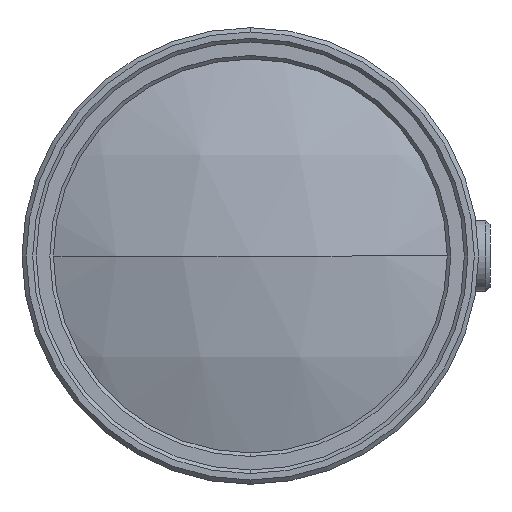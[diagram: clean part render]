
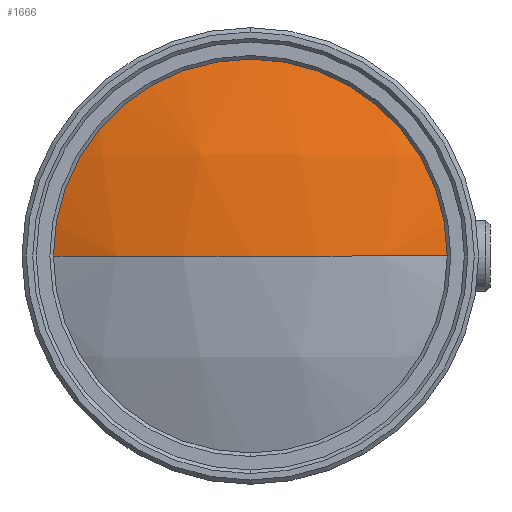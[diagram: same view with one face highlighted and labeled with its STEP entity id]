
A CAD part, left-side view. The second image highlights one B-rep face of the part: STEP entity #1666.
In plain terms, the highlighted spherical face has radius 36.75 mm.
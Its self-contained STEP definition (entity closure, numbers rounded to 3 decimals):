
#185 = CIRCLE ( 'NONE', #608, 36.75 ) ;
#213 = VERTEX_POINT ( 'NONE', #1812 ) ;
#258 = DIRECTION ( 'NONE',  ( 0., 0., 1. ) ) ;
#428 = DIRECTION ( 'NONE',  ( 0., 0., 1. ) ) ;
#484 = CARTESIAN_POINT ( 'NONE',  ( 5.615, 0., 13.9 ) ) ;
#608 = AXIS2_PLACEMENT_3D ( 'NONE', #2148, #428, #2445 ) ;
#737 = DIRECTION ( 'NONE',  ( 0., 0., -1. ) ) ;
#834 = VERTEX_POINT ( 'NONE', #985 ) ;
#835 = ORIENTED_EDGE ( 'NONE', *, *, #1223, .F. ) ;
#966 = ORIENTED_EDGE ( 'NONE', *, *, #2005, .T. ) ;
#981 = AXIS2_PLACEMENT_3D ( 'NONE', #2472, #737, #2750 ) ;
#985 = CARTESIAN_POINT ( 'NONE',  ( 2.884, 0., 0. ) ) ;
#1119 = CARTESIAN_POINT ( 'NONE',  ( 5.615, 0., 0. ) ) ;
#1152 = EDGE_CURVE ( 'NONE', #2860, #213, #2261, .T. ) ;
#1223 = EDGE_CURVE ( 'NONE', #1362, #2860, #3580, .T. ) ;
#1360 = ORIENTED_EDGE ( 'NONE', *, *, #2800, .F. ) ;
#1362 = VERTEX_POINT ( 'NONE', #2919 ) ;
#1382 = CIRCLE ( 'NONE', #981, 36.75 ) ;
#1414 = DIRECTION ( 'NONE',  ( 0., 0., -1. ) ) ;
#1648 = DIRECTION ( 'NONE',  ( 1., 0., 0. ) ) ;
#1666 = ADVANCED_FACE ( 'NONE', ( #2896 ), #3635, .T. ) ;
#1792 = AXIS2_PLACEMENT_3D ( 'NONE', #3353, #1648, #3630 ) ;
#1812 = CARTESIAN_POINT ( 'NONE',  ( 5.615, -13.9, 0. ) ) ;
#2005 = EDGE_CURVE ( 'NONE', #834, #213, #185, .T. ) ;
#2148 = CARTESIAN_POINT ( 'NONE',  ( 39.634, 0., 0. ) ) ;
#2261 = CIRCLE ( 'NONE', #1792, 13.9 ) ;
#2445 = DIRECTION ( 'NONE',  ( 0., -1., 0. ) ) ;
#2472 = CARTESIAN_POINT ( 'NONE',  ( 39.634, 0., 0. ) ) ;
#2506 = AXIS2_PLACEMENT_3D ( 'NONE', #2560, #258, #3402 ) ;
#2560 = CARTESIAN_POINT ( 'NONE',  ( 39.634, 0., 0. ) ) ;
#2750 = DIRECTION ( 'NONE',  ( -1., 0., 0. ) ) ;
#2800 = EDGE_CURVE ( 'NONE', #834, #1362, #1382, .T. ) ;
#2860 = VERTEX_POINT ( 'NONE', #484 ) ;
#2896 = FACE_OUTER_BOUND ( 'NONE', #2958, .T. ) ;
#2919 = CARTESIAN_POINT ( 'NONE',  ( 5.615, 13.9, 0. ) ) ;
#2958 = EDGE_LOOP ( 'NONE', ( #1360, #966, #3137, #835 ) ) ;
#2962 = AXIS2_PLACEMENT_3D ( 'NONE', #1119, #3144, #1414 ) ;
#3137 = ORIENTED_EDGE ( 'NONE', *, *, #1152, .F. ) ;
#3144 = DIRECTION ( 'NONE',  ( 1., 0., 0. ) ) ;
#3353 = CARTESIAN_POINT ( 'NONE',  ( 5.615, 0., 0. ) ) ;
#3402 = DIRECTION ( 'NONE',  ( 0., 1., 0. ) ) ;
#3580 = CIRCLE ( 'NONE', #2962, 13.9 ) ;
#3630 = DIRECTION ( 'NONE',  ( 0., 0., -1. ) ) ;
#3635 = SPHERICAL_SURFACE ( 'NONE', #2506, 36.75 ) ;
